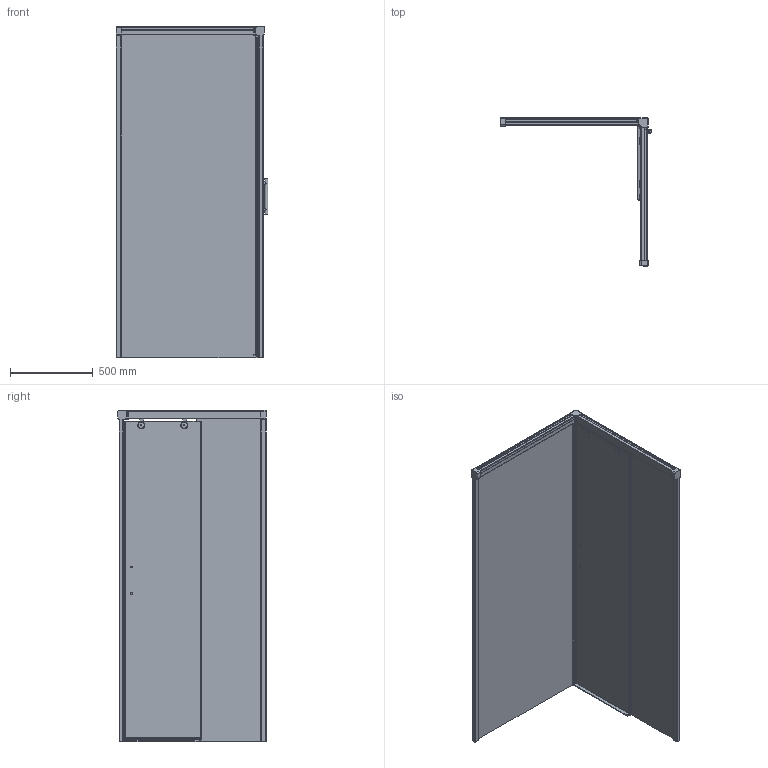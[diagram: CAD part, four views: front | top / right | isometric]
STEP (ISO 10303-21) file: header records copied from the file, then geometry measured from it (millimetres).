
FILE_DESCRIPTION(/* description */ (''),/* implementation_level */ '2;1');
FILE_NAME(/* name */ 'D:\Работа\Сергей\! Готово\Документация и модели всех серий\SLIDE динамические модели и набор документов\SLIDE SQUARE GK-863A\SLIDE SQUARE GK-863A левая модель\SLIDE SQUARE GK-863A ЛЕВАЯ-3D.stp',/* time_stamp */ '2020-09-01T15:14:01+03:00',/* author */ ('User'),/* organization */ (''),/* preprocessor_version */ 'ST-DEVELOPER v15.2',/* originating_system */ 'Autodesk Inventor 2014',/* authorisation */ '');
FILE_SCHEMA (('AUTOMOTIVE_DESIGN { 1 0 10303 214 3 1 1 }'));
Length unit declared in the file: millimetre
Products named in the file (1): SLIDE SQUARE GK-863A ЛЕВАЯ-3D
Bounding box: 916.4 x 895 x 2001.5 mm (x, y, z)
Volume: 32398540.3 mm3; surface area: 8208733.8 mm2
Topology: 3 solids, 10 shells, 949 faces, 2627 edges, 1689 vertices
Faces by surface type: plane 559, cylinder 301, bspline 49, torus 36, cone 4
Full cylindrical faces by diameter (mm): 11 x2, 15.5 x2, 16 x2, 20 x3, 37 x4, 42 x4
Entity records: 33265 total; most frequent: CARTESIAN_POINT 8175, ORIENTED_EDGE 5180, DIRECTION 4848, EDGE_CURVE 2588, LINE 1696, VECTOR 1696, VERTEX_POINT 1679, AXIS2_PLACEMENT_3D 1576
